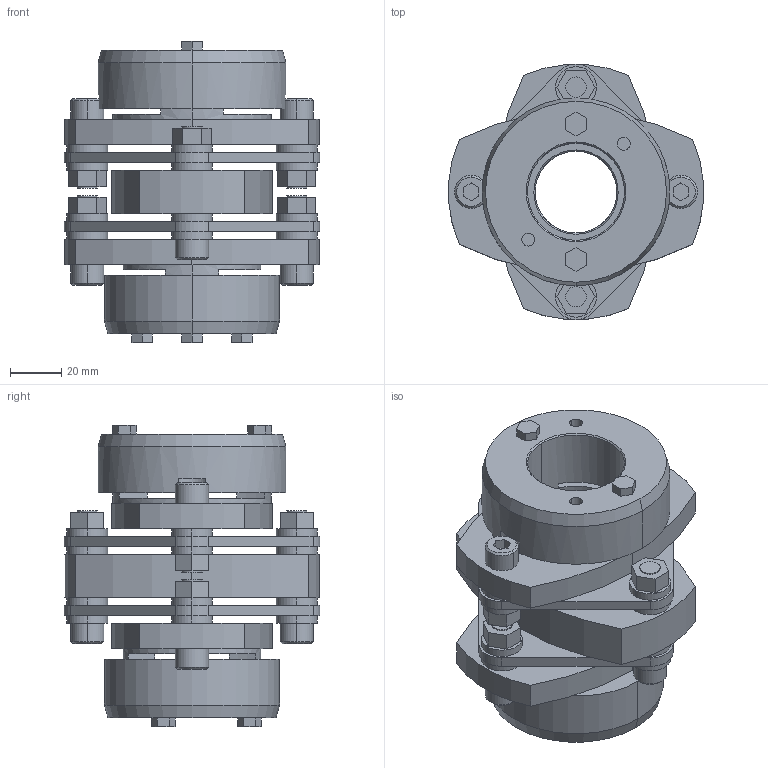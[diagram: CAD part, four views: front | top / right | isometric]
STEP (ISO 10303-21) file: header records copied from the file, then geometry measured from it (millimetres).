
FILE_DESCRIPTION((''),'2;1');
FILE_NAME('LCD-100T7-32×38.stp','2011-09-09T08:58:44',(''),(''),'AutoCAD STEP 2000i','AutoCAD 2000i',', , ');
FILE_SCHEMA(('CONFIG_CONTROL_DESIGN'));
Length unit declared in the file: millimetre
Products named in the file (10): LCD-100T7-30×38; 忣兜1; LC100T7-T038; LC100T7-T035; LC100T7-T030-1; LC100T7-T030; LC100T7-T025; LC100T7-T022-1; LC100T7-T022; LCD100-ITA
Assembly tree (9 placements, depth 2):
  LCD-100T7-30×38
    忣兜1
    LC100T7-T038
    LC100T7-T035
    LC100T7-T030-1
    LC100T7-T030
    LC100T7-T025
    LC100T7-T022-1
    LC100T7-T022
    LCD100-ITA
Bounding box: 100 x 99.93 x 118 mm (x, y, z)
Volume: 356748.1 mm3; surface area: 91625.1 mm2
Topology: 1 solids, 1 shells, 317 faces, 774 edges, 508 vertices
Faces by surface type: plane 171, cylinder 122, cone 24
Entity records: 9637 total; most frequent: DIRECTION 1716, CARTESIAN_POINT 1609, ORIENTED_EDGE 1548, EDGE_CURVE 774, AXIS2_PLACEMENT_3D 615, VERTEX_POINT 508, VECTOR 486, LINE 486
